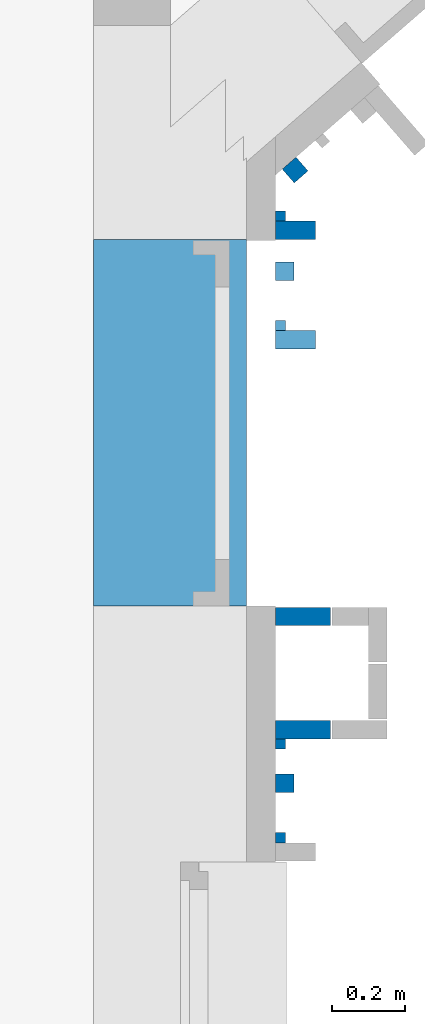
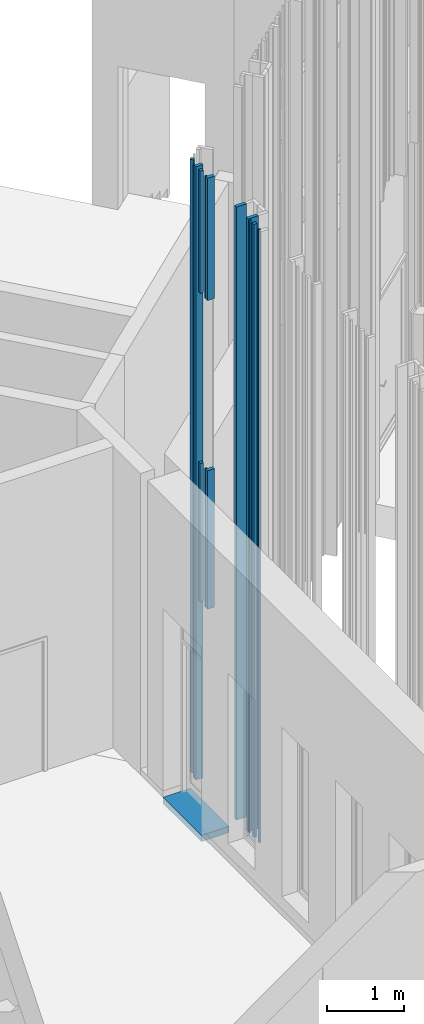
# One storey, part 193 of 390: 15 walls.
"""IFC2X3 building model written with IfcOpenShell, lengths in millimetres."""

from ifc_helpers import new_model, entity, si_unit, converted_unit, derived_unit, money_unit, direction, frame, origin_with_axes, place, context, subcontext, project, spatial, faceted_brep, material, material_list, type_object, element, save


model = new_model("IFC2X3")

# Units and contexts
model_context = context("Model", 3, precision=1e-05, world=origin_with_axes(), true_north=direction((0.0, 1.0)))
body_context = subcontext(model_context, "Body", "Model", "MODEL_VIEW")
ifc_project = project(units=[si_unit("LENGTHUNIT", "METRE", prefix="MILLI"), si_unit("AREAUNIT", "SQUARE_METRE"), si_unit("VOLUMEUNIT", "CUBIC_METRE"), converted_unit("PLANEANGLEUNIT", "DEGREE", entity("IfcPlaneAngleMeasure", 0.0174532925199), si_unit("PLANEANGLEUNIT", "RADIAN"), dimensions=[0, 0, 0, 0, 0, 0, 0]), si_unit("SOLIDANGLEUNIT", "STERADIAN"), money_unit("EUR"), converted_unit("TIMEUNIT", "Year", entity("IfcTimeMeasure", 31556926.0), si_unit("TIMEUNIT", "SECOND"), dimensions=[0, 0, 1, 0, 0, 0, 0]), si_unit("MASSUNIT", "GRAM", prefix="KILO"), si_unit("THERMODYNAMICTEMPERATUREUNIT", "DEGREE_CELSIUS"), si_unit("LUMINOUSINTENSITYUNIT", "LUMEN"), si_unit("ENERGYUNIT", "JOULE", prefix="MEGA"), derived_unit("THERMALCONDUCTANCEUNIT", [(si_unit("POWERUNIT", "WATT"), 1), (si_unit("LENGTHUNIT", "METRE"), -1), (si_unit("THERMODYNAMICTEMPERATUREUNIT", "KELVIN"), -1)]), derived_unit("SPECIFICHEATCAPACITYUNIT", [(si_unit("ENERGYUNIT", "JOULE"), 1), (si_unit("MASSUNIT", "GRAM", prefix="KILO"), -1), (si_unit("THERMODYNAMICTEMPERATUREUNIT", "KELVIN"), -1)]), derived_unit("MASSDENSITYUNIT", [(si_unit("MASSUNIT", "GRAM", prefix="KILO"), 1), (si_unit("VOLUMEUNIT", "CUBIC_METRE"), -1)])], contexts=[model_context])

# Site, building, storey
site_placement = place(None, origin_with_axes())
site = spatial("IfcSite", under=ifc_project, at=site_placement, Name="Site", CompositionType="ELEMENT")
building_placement = place(site_placement, origin_with_axes())
building = spatial("IfcBuilding", under=site, at=building_placement, Name="Building", CompositionType="ELEMENT")
storey_placement = place(building_placement, origin_with_axes())
storey = spatial("IfcBuildingStorey", under=building, at=storey_placement, Name="1 korrus", CompositionType="ELEMENT", Elevation=0.0)

# Walls
ifc_material_1 = material(Name="Site specified")
wall_type_1 = type_object("IfcWallType", Name="Puitfassaadi ribistik", PredefinedType="NOTDEFINED")
wall_1_placement = place(storey_placement, frame((139812.000029, 65916.0000099, 3000.0), z_axis=(0.0, 0.0, 1.0), x_axis=(0.0, -1.0, 0.0)))
element("IfcWall", 1, at=wall_1_placement, inside=storey, type_object=wall_type_1, material=ifc_material_1, Name="Site specified", context=body_context, shape_type="Brep", body=[
    faceted_brep([(-25.0, -25.0, 2206.0), (-25.0, -25.0, 0.0), (25.0, -25.0, 0.0), (25.0, -25.0, 2206.0), (-25.0, 25.0, 2206.0), (-25.0, 25.0, 0.0), (25.0, 25.0, 0.0), (25.0, 25.0, 2206.0)], [[[0, 1, 2, 3]], [[4, 5, 1, 0]], [[2, 1, 5, 6]], [[3, 2, 6, 7]], [[4, 0, 3, 7]], [[7, 6, 5, 4]]]),
])
wall_2_placement = place(storey_placement, frame((139801.000029, 65767.0000099, 3000.0), z_axis=(0.0, 0.0, 1.0), x_axis=(0.0, -1.0, 0.0)))
element("IfcWall", 2, at=wall_2_placement, inside=storey, type_object=wall_type_1, material=ifc_material_1, Name="Site specified", context=body_context, shape_type="Brep", body=[
    faceted_brep([(-14.0, -14.0, 2206.0), (-14.0, -14.0, 0.0), (14.0, -14.0, 0.0), (14.0, -14.0, 2206.0), (-14.0, 14.0, 2206.0), (-14.0, 14.0, 0.0), (14.0, 14.0, 0.0), (14.0, 14.0, 2206.0)], [[[0, 1, 2, 3]], [[4, 5, 1, 0]], [[2, 1, 5, 6]], [[3, 2, 6, 7]], [[4, 0, 3, 7]], [[7, 6, 5, 4]]]),
])
wall_3_placement = place(storey_placement, frame((139841.500029, 65728.0000099, 3000.0), z_axis=(0.0, 0.0, 1.0), x_axis=(0.0, -1.0, 0.0)))
element("IfcWall", 3, at=wall_3_placement, inside=storey, type_object=wall_type_1, material=ifc_material_1, Name="Site specified", context=body_context, shape_type="Brep", body=[
    faceted_brep([(-25.0, -54.5, 2206.0), (-25.0, -54.5, 0.0), (25.0, -54.5, 0.0), (25.0, -54.5, 2206.0), (-25.0, 54.5, 2206.0), (-25.0, 54.5, 0.0), (25.0, 54.5, 0.0), (25.0, 54.5, 2206.0)], [[[0, 1, 2, 3]], [[4, 5, 1, 0]], [[2, 1, 5, 6]], [[3, 2, 6, 7]], [[4, 0, 3, 7]], [[7, 6, 5, 4]]]),
])
wall_4_placement = place(storey_placement, frame((139841.500029, 65728.0000099, 7915.0), z_axis=(0.0, 0.0, 1.0), x_axis=(0.0, -1.0, 0.0)))
element("IfcWall", 4, at=wall_4_placement, inside=storey, type_object=wall_type_1, material=ifc_material_1, Name="Site specified", context=body_context, shape_type="Brep", body=[
    faceted_brep([(-25.0, -54.5, 1950.0), (-25.0, -54.5, 0.0), (25.0, -54.5, 0.0), (25.0, -54.5, 1950.0), (-25.0, 54.5, 1950.0), (-25.0, 54.5, 0.0), (25.0, 54.5, 0.0), (25.0, 54.5, 1950.0)], [[[0, 1, 2, 3]], [[4, 5, 1, 0]], [[2, 1, 5, 6]], [[3, 2, 6, 7]], [[4, 0, 3, 7]], [[7, 6, 5, 4]]]),
])
wall_5_placement = place(storey_placement, frame((139812.000029, 65916.0000099, 7915.0), z_axis=(0.0, 0.0, 1.0), x_axis=(0.0, -1.0, 0.0)))
element("IfcWall", 5, at=wall_5_placement, inside=storey, type_object=wall_type_1, material=ifc_material_1, Name="Site specified", context=body_context, shape_type="Brep", body=[
    faceted_brep([(-25.0, -25.0, 1950.0), (-25.0, -25.0, 0.0), (25.0, -25.0, 0.0), (25.0, -25.0, 1950.0), (-25.0, 25.0, 1950.0), (-25.0, 25.0, 0.0), (25.0, 25.0, 0.0), (25.0, 25.0, 1950.0)], [[[0, 1, 2, 3]], [[4, 5, 1, 0]], [[2, 1, 5, 6]], [[3, 2, 6, 7]], [[4, 0, 3, 7]], [[7, 6, 5, 4]]]),
])
wall_6_placement = place(storey_placement, frame((139801.000029, 65767.0000099, 7915.0), z_axis=(0.0, 0.0, 1.0), x_axis=(0.0, -1.0, 0.0)))
element("IfcWall", 6, at=wall_6_placement, inside=storey, type_object=wall_type_1, material=ifc_material_1, Name="Site specified", context=body_context, shape_type="Brep", body=[
    faceted_brep([(-14.0, -14.0, 1950.0), (-14.0, -14.0, 0.0), (14.0, -14.0, 0.0), (14.0, -14.0, 1950.0), (-14.0, 14.0, 1950.0), (-14.0, 14.0, 0.0), (14.0, 14.0, 0.0), (14.0, 14.0, 1950.0)], [[[0, 1, 2, 3]], [[4, 5, 1, 0]], [[2, 1, 5, 6]], [[3, 2, 6, 7]], [[4, 0, 3, 7]], [[7, 6, 5, 4]]]),
])
for number, where, z_axis, x_axis, name in (
    (7, (139800.999997, 64367.0000087, 100.000000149), (0.0, 0.0, 1.0), (0.0, -1.0, 0.0), "Site specified"),
    (8, (139800.999997, 64622.9999762, 100.000000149), (0.0, 0.0, 1.0), (0.0, -1.0, 0.0), "Site specified"),
):
    element("IfcWall", number, at=place(storey_placement, frame(where, z_axis=z_axis, x_axis=x_axis)), inside=storey, type_object=wall_type_1, material=ifc_material_1, Name=name, context=body_context, shape_type="Brep", body=[
        faceted_brep([(-14.0, -14.0, 9764.99999985), (-14.0, -14.0, 0.0), (14.0, -14.0, 0.0), (14.0, -14.0, 9764.99999985), (-14.0, 14.0, 9764.99999985), (-14.0, 14.0, 0.0), (14.0, 14.0, 0.0), (14.0, 14.0, 9764.99999985)], [[[0, 1, 2, 3]], [[4, 5, 1, 0]], [[2, 1, 5, 6]], [[3, 2, 6, 7]], [[4, 0, 3, 7]], [[7, 6, 5, 4]]]),
    ])
wall_7_placement = place(storey_placement, frame((139840.758087, 66192.3330627, 100.0), z_axis=(0.0, 0.0, 1.0), x_axis=(-0.754709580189, -0.65605902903, 0.0)))
element("IfcWall", 9, at=wall_7_placement, inside=storey, type_object=wall_type_1, material=ifc_material_1, Name="Site specified", context=body_context, shape_type="Brep", body=[
    faceted_brep([(-25.0, -25.0, 9765.0), (-25.0, -25.0, 0.0), (25.0, -25.0, 0.0), (25.0, -25.0, 9765.0), (-25.0, 25.0, 9765.0), (-25.0, 25.0, 0.0), (25.0, 25.0, 0.0), (25.0, 25.0, 9765.0)], [[[0, 1, 2, 3]], [[4, 5, 1, 0]], [[2, 1, 5, 6]], [[3, 2, 6, 7]], [[4, 0, 3, 7]], [[7, 6, 5, 4]]]),
])
wall_8_placement = place(storey_placement, frame((139811.999997, 64516.0000087, 100.000000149), z_axis=(0.0, 0.0, 1.0), x_axis=(0.0, -1.0, 0.0)))
element("IfcWall", 10, at=wall_8_placement, inside=storey, type_object=wall_type_1, material=ifc_material_1, Name="Site specified", context=body_context, shape_type="Brep", body=[
    faceted_brep([(-25.0, -25.0, 9764.99999985), (-25.0, -25.0, 0.0), (25.0, -25.0, 0.0), (25.0, -25.0, 9764.99999985), (-25.0, 25.0, 9764.99999985), (-25.0, 25.0, 0.0), (25.0, 25.0, 0.0), (25.0, 25.0, 9764.99999985)], [[[0, 1, 2, 3]], [[4, 5, 1, 0]], [[2, 1, 5, 6]], [[3, 2, 6, 7]], [[4, 0, 3, 7]], [[7, 6, 5, 4]]]),
])
wall_9_placement = place(storey_placement, frame((139841.499997, 66028.0000087, 100.000000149), z_axis=(0.0, 0.0, 1.0), x_axis=(0.0, -1.0, 0.0)))
element("IfcWall", 11, at=wall_9_placement, inside=storey, type_object=wall_type_1, material=ifc_material_1, Name="Site specified", context=body_context, shape_type="Brep", body=[
    faceted_brep([(-25.0, -54.5, 9764.99999985), (-25.0, -54.5, 0.0), (25.0, -54.5, 0.0), (25.0, -54.5, 9764.99999985), (-25.0, 54.5, 9764.99999985), (-25.0, 54.5, 0.0), (25.0, 54.5, 0.0), (25.0, 54.5, 9764.99999985)], [[[0, 1, 2, 3]], [[4, 5, 1, 0]], [[2, 1, 5, 6]], [[3, 2, 6, 7]], [[4, 0, 3, 7]], [[7, 6, 5, 4]]]),
])
wall_10_placement = place(storey_placement, frame((139800.999997, 66067.0000087, 100.000000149), z_axis=(0.0, 0.0, 1.0), x_axis=(0.0, -1.0, 0.0)))
element("IfcWall", 12, at=wall_10_placement, inside=storey, type_object=wall_type_1, material=ifc_material_1, Name="Site specified", context=body_context, shape_type="Brep", body=[
    faceted_brep([(-14.0, -14.0, 9764.99999985), (-14.0, -14.0, 0.0), (14.0, -14.0, 0.0), (14.0, -14.0, 9764.99999985), (-14.0, 14.0, 9764.99999985), (-14.0, 14.0, 0.0), (14.0, 14.0, 0.0), (14.0, 14.0, 9764.99999985)], [[[0, 1, 2, 3]], [[4, 5, 1, 0]], [[2, 1, 5, 6]], [[3, 2, 6, 7]], [[4, 0, 3, 7]], [[7, 6, 5, 4]]]),
])
ifc_material_2 = material(Name="Krohv - Lubjakivi")
ifc_material_3 = material(Name="Raudbetoon - Konstruktsioon")
ifc_material_4 = material(Name="Soojustus - Plastik Kõva")
ifc_material_5 = material(Name="Plaat - Sein")
ifc_material_list = material_list([ifc_material_2, ifc_material_3, ifc_material_4, ifc_material_4, ifc_material_5])
wall_type_2 = type_object("IfcWallType", Name="VS-05", PredefinedType="NOTDEFINED")
wall_11_placement = place(storey_placement, frame((139290.000353, 65000.0000171, -100.0), z_axis=(0.0, 0.0, 1.0), x_axis=(1.8420866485e-08, 1.0, 0.0)))
element("IfcWall", 13, at=wall_11_placement, inside=storey, type_object=wall_type_2, material=ifc_material_list, Name="VS-05", context=body_context, shape_type="Brep", body=[
    faceted_brep([(1002.99999946, -9.99998152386, 100.0), (1002.99999928, 1.84761290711e-05, 100.0), (0.0, 0.0, 100.0), (1.84215309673e-07, -9.99999999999, 100.0), (1002.99999946, -9.99998152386, 0.0), (1002.99999928, 1.84761290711e-05, 0.0), (0.0, 0.0, 0.0), (1.84215309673e-07, -9.99999999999, 0.0)], [[[0, 1, 2, 3]], [[0, 4, 5, 1]], [[1, 5, 6, 2]], [[3, 2, 6, 7]], [[4, 0, 3, 7]], [[5, 4, 7, 6]]]),
    faceted_brep([(1003.00000314, -209.999981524, 100.0), (1002.99999946, -9.99998152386, 100.0), (1.84215309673e-07, -9.99999999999, 100.0), (3.86839360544e-06, -210.0, 100.0), (1003.00000314, -209.999981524, 0.0), (1002.99999946, -9.99998152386, 0.0), (1.84215309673e-07, -9.99999999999, 0.0), (3.86839360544e-06, -210.0, 0.0)], [[[0, 1, 2, 3]], [[0, 4, 5, 1]], [[1, 5, 6, 2]], [[3, 2, 6, 7]], [[4, 0, 3, 7]], [[5, 4, 7, 6]]]),
    faceted_brep([(1003.00000591, -359.999981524, 100.0), (1003.00000314, -209.999981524, 100.0), (3.86839360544e-06, -210.0, 100.0), (6.63152377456e-06, -360.0, 100.0), (1003.00000591, -359.999981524, 0.0), (1003.00000314, -209.999981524, 0.0), (3.86839360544e-06, -210.0, 0.0), (6.63152377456e-06, -360.0, 0.0)], [[[0, 1, 2, 3]], [[0, 4, 5, 1]], [[1, 5, 6, 2]], [[3, 2, 6, 7]], [[4, 0, 3, 7]], [[5, 4, 7, 6]]]),
    faceted_brep([(1003.00000683, -409.999981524, 100.0), (1003.00000591, -359.999981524, 100.0), (6.63152377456e-06, -360.0, 100.0), (7.55255769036e-06, -410.0, 100.0), (1003.00000683, -409.999981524, 0.0), (1003.00000591, -359.999981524, 0.0), (6.63152377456e-06, -360.0, 0.0), (7.55255769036e-06, -410.0, 0.0)], [[[0, 1, 2, 3]], [[0, 4, 5, 1]], [[1, 5, 6, 2]], [[3, 2, 6, 7]], [[4, 0, 3, 7]], [[5, 4, 7, 6]]]),
    faceted_brep([(1003.00000697, -417.999981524, 100.0), (1003.00000683, -409.999981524, 100.0), (7.55255769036e-06, -410.0, 100.0), (7.69992425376e-06, -418.0, 100.0), (1003.00000697, -417.999981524, 0.0), (1003.00000683, -409.999981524, 0.0), (7.55255769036e-06, -410.0, 0.0), (7.69992425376e-06, -418.0, 0.0)], [[[0, 1, 2, 3]], [[0, 4, 5, 1]], [[1, 5, 6, 2]], [[3, 2, 6, 7]], [[4, 0, 3, 7]], [[5, 4, 7, 6]]]),
])
wall_type_3 = type_object("IfcWallType", Name="Puitfassaadi ribisik", PredefinedType="NOTDEFINED")
for number, where, z_axis, x_axis, name in (
    (14, (139862.000002, 64661.9999618, 100.000000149), (0.0, 0.0, 1.0), (-1.92421249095e-07, -1.0, 0.0), "Site specified"),
    (15, (139861.999993, 64971.9999942, 100.000000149), (0.0, 0.0, 1.0), (-1.92421249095e-07, -1.0, 0.0), "Site specified"),
):
    element("IfcWall", number, at=place(storey_placement, frame(where, z_axis=z_axis, x_axis=x_axis)), inside=storey, type_object=wall_type_3, material=ifc_material_1, Name=name, context=body_context, shape_type="Brep", body=[
        faceted_brep([(-25.0, -75.0, 9764.99999475), (-25.0, -75.0, 0.0), (25.0, -75.0, 0.0), (25.0, -75.0, 9764.99999475), (-25.0, 75.0, 9764.99999475), (-25.0, 75.0, 0.0), (25.0, 75.0, 0.0), (25.0, 75.0, 9764.99999475)], [[[0, 1, 2, 3]], [[4, 5, 1, 0]], [[2, 1, 5, 6]], [[3, 2, 6, 7]], [[4, 0, 3, 7]], [[7, 6, 5, 4]]]),
    ])

save(model, "model.ifc")
